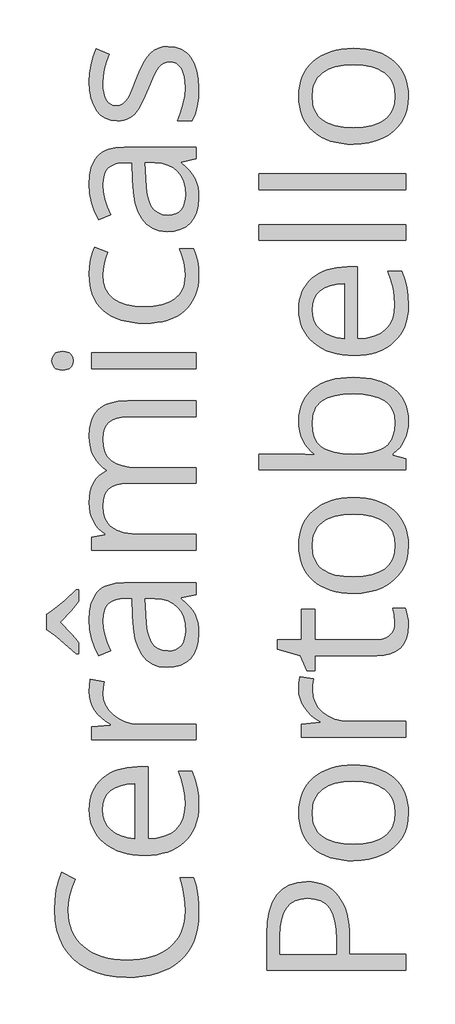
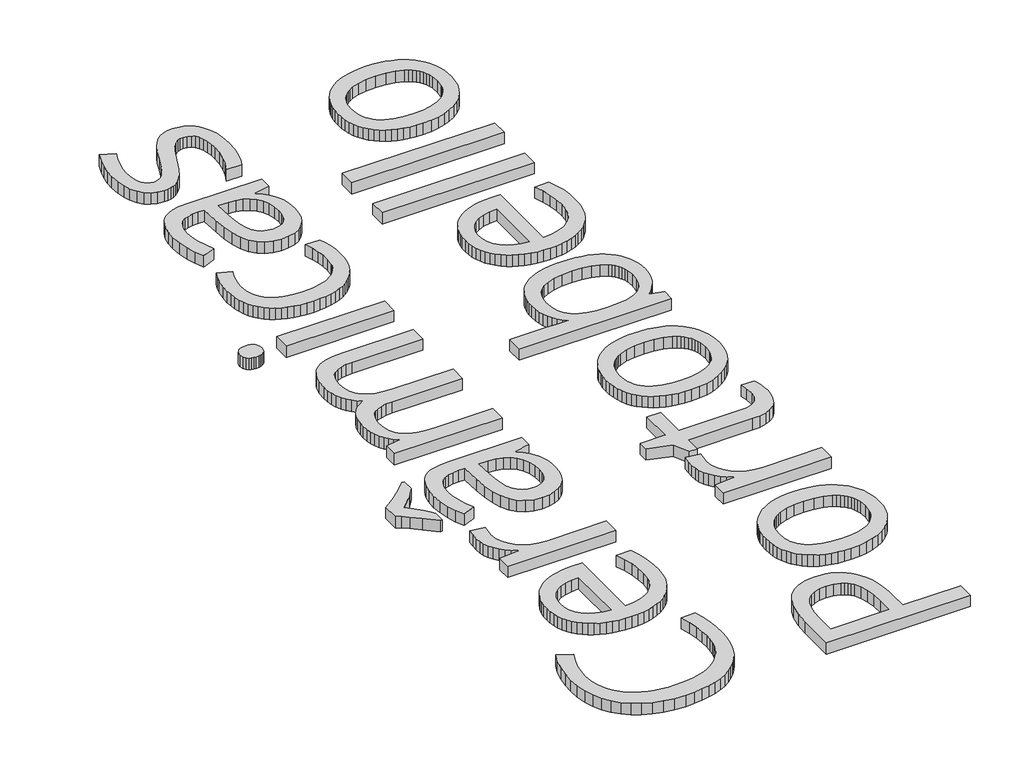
# One storey, part 2 of 4: 1 proxy.
"""IFC4 building model written with IfcOpenShell, lengths in millimetres."""

from ifc_helpers import new_model, si_unit, origin, origin_with_axes, place, context, project, spatial, polyline, outline, extrude, element, save

model = new_model("IFC4")

# Units and contexts
model_context = context("Model", 3, world=origin())
ifc_project = project(units=[si_unit("LENGTHUNIT", "METRE", prefix="MILLI")], contexts=[model_context])

# Site, building, storey
site = spatial("IfcSite", under=ifc_project)
building = spatial("IfcBuilding", under=site)
storey = spatial("IfcBuildingStorey", under=building, Name="PORTOBELLO - SHOWROOM", Elevation=0.0)

# Proxy
placement = place(None, origin())
element("IfcBuildingElementProxy", 1, Name="1200mm OpenSans", ObjectType="1200mm OpenSans", at=placement, inside=storey, context=model_context, shape_type="SweptSolid", body=[
    extrude(outline(polyline([(46885.574215, 18887.7338873), (46887.6952623, 18839.549777), (46894.0584042, 18793.968386), (46904.6636407, 18750.9897145), (46919.5109718, 18710.6137623), (46938.6003975, 18672.8405296), (46961.9319178, 18637.6700162), (46989.5055326, 18605.1022222), (47021.3212421, 18575.1371476), (47056.8269542, 18548.2649149), (47095.4705769, 18524.9756466), (47137.2521102, 18505.2693426), (47182.1715541, 18489.146003), (47230.2289086, 18476.6056277), (47281.4241737, 18467.6482168), (47335.7573495, 18462.2737703), (47393.2284358, 18460.4822881), (47452.1698897, 18462.208984), (47507.6692189, 18467.3890716), (47559.7264236, 18476.022551), (47608.3415037, 18488.1094221), (47653.5144592, 18503.649685), (47695.2452902, 18522.6433396), (47733.5339966, 18545.090386), (47768.3805784, 18570.9908241), (47799.435753, 18600.0855088), (47826.3502377, 18632.1152947), (47849.1240324, 18667.080182), (47867.7571371, 18704.9801706), (47882.2495519, 18745.8152605), (47892.6012768, 18789.5854516), (47898.8123117, 18836.2907441), (47900.8826567, 18885.931138), (47898.0658608, 18951.0329243), (47889.6154731, 19020.506378), (47875.5314937, 19094.3514988), (47855.8139226, 19172.5682868), (47972.6320813, 19172.5682868), (47991.7186902, 19106.5425913), (48005.3519823, 19033.215761), (48013.5319575, 18952.5877957), (48016.2586159, 18864.6586955), (48013.7206829, 18800.2104057), (48006.1068836, 18739.5478896), (47993.4172182, 18682.6711472), (47975.6516865, 18629.5801784), (47952.8102887, 18580.2749833), (47924.8930248, 18534.7555619), (47891.8998946, 18493.0219141), (47853.8308983, 18455.07404), (47811.0860208, 18421.2724894), (47764.0652471, 18391.9778123), (47712.7685774, 18367.1900085), (47657.1960114, 18346.9090782), (47597.3475493, 18331.1350213), (47533.2231911, 18319.8678377), (47464.8229367, 18313.1075276), (47392.1467862, 18310.8540909), (47301.3107527, 18315.1919566), (47216.2885858, 18328.2055535), (47137.0802856, 18349.8948818), (47063.6858522, 18380.2599414), (46997.2432709, 18418.8162434), (46938.8905275, 18465.079299), (46888.6276218, 18519.0491081), (46846.4545538, 18580.7256707), (46813.0924234, 18649.1512762), (46789.2623303, 18723.3682141), (46774.9642744, 18803.3764843), (46770.1982557, 18889.1760868), (46774.1868387, 18980.665617), (46786.1525876, 19066.2060743), (46806.0955024, 19145.7974587), (46834.0155832, 19219.4397702), (46949.7520924, 19160.3095911), (46921.674271, 19092.1656652), (46901.6186844, 19024.0217392), (46889.5853324, 18955.8778133), (46885.574215, 18887.7338873)])), origin_with_axes(), (0.0, 0.0, 1.0), 100.0),
    extrude(outline(polyline([(48016.2586159, 19795.5984669), (48014.3319276, 19746.9749364), (48008.5518624, 19700.9766597), (47998.9184205, 19657.6036367), (47985.4316018, 19616.8558675), (47968.0914064, 19578.733352), (47946.8978342, 19543.2360903), (47921.8508852, 19510.3640824), (47892.9505595, 19480.1173282), (47860.6306435, 19452.9915839), (47825.324924, 19429.4826055), (47787.0334008, 19409.590393), (47745.7560739, 19393.3149464), (47701.4929434, 19380.6562657), (47654.2440093, 19371.6143509), (47604.0092716, 19366.189202), (47550.7887302, 19364.3808191), (47497.041448, 19366.0596294), (47446.1278625, 19371.0960605), (47398.0479736, 19379.4901122), (47352.8017814, 19391.2417846), (47310.3892858, 19406.3510777), (47270.8104869, 19424.8179915), (47234.0653846, 19446.642526), (47200.153979, 19471.8246812), (47169.6903315, 19499.8348994), (47143.2885037, 19530.1436231), (47120.9484956, 19562.7508522), (47102.6703071, 19597.6565867), (47088.4539383, 19634.8608267), (47078.2993892, 19674.3635722), (47072.2066597, 19716.164823), (47070.1757499, 19760.2645794), (47071.9728656, 19801.6095093), (47077.364213, 19840.7348041), (47086.3497918, 19877.6404637), (47098.9296022, 19912.3264882), (47115.1036442, 19944.7928775), (47134.8719177, 19975.0396317), (47158.2344227, 20003.0667507), (47185.1911593, 20028.8742346), (47215.0942643, 20052.0282967), (47247.2958749, 20072.0951505), (47281.7959908, 20089.0747961), (47318.5946122, 20102.9672334), (47357.691739, 20113.7724624), (47399.0873713, 20121.4904831), (47442.781509, 20126.1212955), (47488.7741521, 20127.6648997), (47577.8299707, 20127.6648997), (47577.8299707, 19506.0769191), (47652.3736569, 19512.578084), (47717.3627714, 19528.11553), (47772.7973144, 19552.6892573), (47796.9316215, 19568.3647264), (47818.6772857, 19586.2992658), (47837.9441695, 19606.3295013), (47854.6421355, 19628.2920587), (47880.3313139, 19678.0141396), (47895.744821, 19735.4655084), (47900.8826567, 19800.6461651), (47897.0743486, 19873.2744301), (47885.6494245, 19945.4970765), (47866.6078844, 20017.3141043), (47839.9497282, 20088.7255134), (47959.6522859, 20088.7255134), (47985.6569455, 20018.2380133), (48003.0985456, 19951.7165618), (48012.9685984, 19880.4178245), (48016.2586159, 19795.5984669)]), holes=[polyline([(47185.5517091, 19758.8223799), (47190.14872, 19707.2975496), (47203.9397527, 19661.2485706), (47226.924807, 19620.6754427), (47259.1038832, 19585.578166), (47299.3953315, 19556.5426341), (47346.7175023, 19534.1547404), (47401.0703956, 19518.414485), (47462.4540114, 19509.3218679), (47462.4540114, 19981.2816514), (47399.3127149, 19977.6761526), (47344.0133782, 19966.8596564), (47296.5560012, 19948.8321628), (47256.9405839, 19923.5936717), (47225.7079512, 19891.6624736), (47203.3989278, 19853.5568589), (47190.0135138, 19809.2768277), (47185.5517091, 19758.8223799)])]), origin_with_axes(), (0.0, 0.0, 1.0), 100.0),
    extrude(outline(polyline([(47070.1757499, 20774.8519213), (47072.4291866, 20832.359626), (47079.1894967, 20883.7379828), (47197.8104048, 20864.6288396), (47188.6163831, 20811.4477333), (47185.5517091, 20765.1170747), (47191.1965681, 20711.7894951), (47208.1311449, 20662.4955672), (47236.3554396, 20617.235291), (47275.8694523, 20576.0086664), (47323.8113182, 20541.7000926), (47377.3191727, 20517.1939685), (47436.3930159, 20502.490294), (47501.0328478, 20497.5890691), (47993.1834241, 20497.5890691), (47993.1834241, 20361.3012172), (47093.2509417, 20361.3012172), (47093.2509417, 20473.7927775), (47254.7772847, 20489.296422), (47254.7772847, 20495.7863198), (47212.9760338, 20522.4895447), (47176.2675499, 20551.7616875), (47144.651833, 20583.6027481), (47118.1288829, 20618.0127266), (47097.1493872, 20654.5860043), (47082.1640331, 20692.9169627), (47073.1728207, 20733.0056017), (47070.1757499, 20774.8519213)])), origin_with_axes(), (0.0, 0.0, 1.0), 100.0),
    extrude(outline(polyline([(47993.1834241, 21614.212025), (47861.5827205, 21586.8102347), (47861.5827205, 21579.9597871), (47903.1811621, 21545.9216257), (47937.4784688, 21511.9510674), (47964.4746405, 21478.0481121), (47984.1696773, 21444.21276), (47998.2085879, 21408.3042461), (48008.2363813, 21368.1818056), (48014.2530573, 21323.8454384), (48016.2586159, 21275.2951446), (48011.7855441, 21211.1848704), (47998.3663285, 21154.4207998), (47976.0009692, 21105.0029329), (47944.6894662, 21062.9312696), (47905.1303849, 21029.3325283), (47858.0222905, 21005.3334274), (47803.3651833, 20990.9339669), (47741.159063, 20986.1341467), (47674.6094436, 20993.0409302), (47616.4764102, 21013.7612807), (47566.7599629, 21048.2951982), (47525.4601017, 21096.6426827), (47492.5768266, 21158.8037342), (47468.1101375, 21234.7783527), (47452.0600346, 21324.5665382), (47444.4265178, 21428.1682907), (47439.3788196, 21582.8441861), (47385.2963386, 21582.8441861), (47337.6023508, 21579.9597871), (47296.5560012, 21571.3065902), (47262.1572899, 21556.8845952), (47234.4062169, 21536.6938024), (47213.0323698, 21510.148318), (47197.7653361, 21476.6622486), (47188.6051159, 21436.2355941), (47185.5517091, 21388.8683545), (47189.8783076, 21329.8733816), (47202.858103, 21267.1827725), (47224.4910954, 21200.7965272), (47254.7772847, 21130.7146457), (47149.4967219, 21088.1697607), (47116.3712023, 21158.7473983), (47091.2679174, 21235.6346586), (47075.4487918, 21315.8570053), (47070.1757499, 21396.4399019), (47074.6826233, 21472.639864), (47088.2032435, 21538.2712081), (47110.7376105, 21593.3339339), (47125.3849491, 21616.9020651), (47142.2857244, 21637.8280417), (47161.6709137, 21656.2076348), (47183.7714941, 21672.1366155), (47208.5874659, 21685.6149838), (47236.1188288, 21696.6427397), (47299.3277284, 21711.3464142), (47373.3981928, 21716.247639), (47993.1834241, 21716.247639), (47993.1834241, 21614.212025)]), holes=[polyline([(47900.8826567, 21302.3363851), (47896.5222566, 21363.5847947), (47883.4410566, 21417.8926193), (47861.6390565, 21465.2598588), (47831.1162563, 21505.6865133), (47792.7514964, 21538.02333), (47747.4236171, 21561.1210563), (47695.1326184, 21574.979692), (47635.8785002, 21579.5992372), (47554.7547788, 21579.5992372), (47560.5235768, 21440.7875362), (47565.8416874, 21363.967879), (47576.0272213, 21298.6407489), (47591.0801785, 21244.806146), (47611.000559, 21202.4640703), (47636.4418594, 21170.4427348), (47668.0575763, 21147.5703522), (47705.8477099, 21133.8469227), (47749.81226, 21129.2724462), (47784.560254, 21132.1230436), (47814.891512, 21140.6748359), (47840.8060341, 21154.9278231), (47862.3038203, 21174.8820051), (47879.1820612, 21199.9514884), (47891.2379476, 21229.5503795), (47898.4714794, 21263.6786784), (47900.8826567, 21302.3363851)])]), origin_with_axes(), (0.0, 0.0, 1.0), 100.0),
    extrude(outline(polyline([(46958.4052893, 21104.394505), (46858.8935244, 21192.7292238), (46789.6679489, 21250.0566535), (46740.4528912, 21286.1116408), (46700.9726802, 21310.6290322), (46700.9726802, 21446.5563342), (46741.5345409, 21471.2089317), (46792.5523479, 21509.1117371), (46862.1384733, 21568.10671), (46958.4052893, 21656.0358103), (46977.8749824, 21656.0358103), (46977.8749824, 21558.6873446), (46950.157711, 21520.3338519), (46914.2379299, 21477.3833483), (46817.7908389, 21377.6913085), (46915.4998545, 21277.1880315), (46951.1041544, 21235.1163682), (46977.8749824, 21198.4980217), (46977.8749824, 21104.394505), (46958.4052893, 21104.394505)])), origin_with_axes(), (0.0, 0.0, 1.0), 100.0),
    extrude(outline(polyline([(47993.1834241, 23149.793933), (47402.6027325, 23149.793933), (47351.7313989, 23146.9095341), (47307.6429098, 23138.2563371), (47270.3372652, 23123.8343422), (47239.814465, 23103.6435493), (47216.0745093, 23077.3684774), (47199.1173981, 23044.6936451), (47188.9431314, 23005.6190527), (47185.5517091, 22960.1447), (47190.1599872, 22900.4962304), (47203.9848214, 22849.1854766), (47227.0262117, 22806.2124387), (47259.2841581, 22771.5771165), (47301.1192105, 22744.9189603), (47352.8919188, 22725.8774202), (47414.602283, 22714.4524961), (47486.250303, 22710.644188), (47993.1834241, 22710.644188), (47993.1834241, 22573.9957863), (47402.6027325, 22573.9957863), (47351.7313989, 22571.1113873), (47307.6429098, 22562.4581903), (47270.3372652, 22548.0361954), (47239.814465, 22527.8454026), (47216.0745093, 22501.5252618), (47199.1173981, 22468.7152234), (47188.9431314, 22429.4152873), (47185.5517091, 22383.6254535), (47190.3965981, 22323.5713653), (47204.9312648, 22272.1254053), (47229.1557094, 22229.2875736), (47244.9015984, 22211.0967058), (47263.0699318, 22195.05787), (47308.0034597, 22168.8729355), (47365.2858207, 22150.1694109), (47434.9170149, 22138.9472961), (47516.8970422, 22135.2065911), (47993.1834241, 22135.2065911), (47993.1834241, 21998.9187392), (47093.2509417, 21998.9187392), (47093.2509417, 22109.9681), (47208.626901, 22131.9616423), (47208.626901, 22138.45154), (47177.7886197, 22159.8929902), (47150.5333028, 22185.2779547), (47126.8609502, 22214.6064334), (47106.7715619, 22247.8784264), (47090.7608942, 22284.1700245), (47079.3247029, 22322.5573188), (47072.4629881, 22363.0403092), (47070.1757499, 22405.6189957), (47072.5418584, 22456.2424513), (47079.640184, 22502.2914303), (47091.4707267, 22543.7659329), (47108.0334865, 22580.6659589), (47129.3284634, 22612.9915084), (47155.3556573, 22640.7425815), (47186.1150683, 22663.919178), (47221.6066964, 22682.521298), (47221.6066964, 22689.0111957), (47188.4586425, 22711.4666924), (47158.961156, 22738.451597), (47133.114237, 22769.9659093), (47110.9178855, 22806.0096294), (47093.0932012, 22845.6588482), (47080.3612838, 22887.9896567), (47072.7221333, 22933.0020549), (47070.1757499, 22980.6960427), (47075.1107762, 23052.5018033), (47089.9158554, 23114.6853892), (47101.0196648, 23142.1688666), (47114.5909873, 23167.2468003), (47130.6298231, 23189.9191904), (47149.136172, 23210.1860367), (47170.3579122, 23228.0586066), (47194.5429216, 23243.5481671), (47221.6912003, 23256.6547184), (47251.8027483, 23267.3782603), (47320.915652, 23281.6763162), (47401.8816328, 23286.4423348), (47993.1834241, 23286.4423348), (47993.1834241, 23149.793933)])), origin_with_axes(), (0.0, 0.0, 1.0), 100.0),
    extrude(outline(polyline([(47993.1834241, 23700.3535887), (47993.1834241, 23564.0657368), (47093.2509417, 23564.0657368), (47093.2509417, 23700.3535887), (47993.1834241, 23700.3535887)])), origin_with_axes(), (0.0, 0.0, 1.0), 100.0),
    extrude(outline(polyline([(46839.0632814, 23552.5281409), (46816.8556627, 23553.9703404), (46797.8253897, 23558.2969389), (46781.9724625, 23565.5079363), (46769.2968811, 23575.6033328), (46752.6665182, 23601.5629236), (46747.1230639, 23633.2913124), (46752.7566556, 23663.8479141), (46769.6574309, 23689.8976424), (46782.4456842, 23700.30852), (46798.2760771, 23707.7448611), (46817.1486095, 23712.2066658), (46839.0632814, 23713.693934), (46861.0004878, 23712.2066658), (46879.9406233, 23707.7448611), (46895.8836879, 23700.30852), (46908.8296818, 23689.8976424), (46926.0008695, 23663.8479141), (46931.7245987, 23633.2913124), (46926.0008695, 23601.5629236), (46918.846208, 23587.8620284), (46908.8296818, 23575.6033328), (46895.8836879, 23565.5079363), (46879.9406233, 23558.2969389), (46861.0004878, 23553.9703404), (46839.0632814, 23552.5281409)])), origin_with_axes(), (0.0, 0.0, 1.0), 100.0),
    extrude(outline(polyline([(48016.2586159, 24370.2552523), (48014.3516451, 24322.3415543), (48008.6307327, 24277.2108507), (47999.0958786, 24234.8631415), (47985.747083, 24195.2984265), (47968.5843457, 24158.5167059), (47947.6076667, 24124.5179796), (47922.8170462, 24093.3022477), (47894.212484, 24064.8695101), (47862.1207286, 24039.5183471), (47826.8685281, 24017.5473393), (47788.4558827, 23998.9564865), (47746.8827923, 23983.7457887), (47702.1492569, 23971.915246), (47654.2552765, 23963.4648584), (47603.2008512, 23958.3946258), (47548.9859809, 23956.7045482), (47493.3739798, 23958.4199769), (47441.0125612, 23963.566263), (47391.901725, 23972.1434065), (47346.0414712, 23984.1514073), (47303.4318, 23999.5902655), (47264.0727111, 24018.4599811), (47227.9642047, 24040.7605541), (47195.1062808, 24066.4919845), (47165.8256876, 24095.395127), (47140.4491735, 24127.2108365), (47118.9767385, 24161.9391129), (47101.4083826, 24199.5799563), (47087.7441058, 24240.1333666), (47077.983908, 24283.5993438), (47072.1277894, 24329.977888), (47070.1757499, 24379.2689991), (47073.5108362, 24444.8440072), (47083.5160952, 24510.3288778), (47098.0282275, 24568.6928885), (47114.8839341, 24612.9053166), (47227.7360443, 24570.7209815), (47211.1958188, 24522.9030547), (47197.6301299, 24471.0289417), (47188.5713143, 24420.2364784), (47185.5517091, 24375.6635004), (47191.1909345, 24310.6800194), (47208.1086106, 24254.3610026), (47236.3047373, 24206.7064498), (47275.7793148, 24167.7163613), (47326.532343, 24137.3907368), (47388.5638219, 24115.7295765), (47461.8737515, 24102.7328803), (47546.4621318, 24098.4006482), (47627.1126314, 24102.6258421), (47697.8029408, 24115.3014235), (47758.53306, 24136.4273926), (47809.302989, 24166.0037494), (47830.7669736, 24183.921388), (47849.3690936, 24203.8727532), (47865.109349, 24225.857845), (47877.9877398, 24249.8766635), (47888.0042659, 24275.9292086), (47895.1589274, 24304.0154803), (47900.8826567, 24366.2892037), (47897.8405171, 24423.5940991), (47888.7140985, 24481.5750255), (47873.5034007, 24540.2319829), (47852.2084238, 24599.5649713), (47970.829332, 24599.5649713), (47990.7046437, 24551.0259447), (48004.901295, 24496.6279827), (48013.4192857, 24436.3710852), (48016.2586159, 24370.2552523)])), origin_with_axes(), (0.0, 0.0, 1.0), 100.0),
    extrude(outline(polyline([(47993.1834241, 25375.4682975), (47861.5827205, 25348.0665072), (47861.5827205, 25341.2160596), (47903.1811621, 25307.1778982), (47937.4784688, 25273.2073398), (47964.4746405, 25239.3043846), (47984.1696773, 25205.4690325), (47998.2085879, 25169.5605186), (48008.2363813, 25129.4380781), (48014.2530573, 25085.1017109), (48016.2586159, 25036.5514171), (48011.7855441, 24972.4411429), (47998.3663285, 24915.6770723), (47976.0009692, 24866.2592053), (47944.6894662, 24824.1875421), (47905.1303849, 24790.5888008), (47858.0222905, 24766.5896999), (47803.3651833, 24752.1902394), (47741.159063, 24747.3904192), (47674.6094436, 24754.2972027), (47616.4764102, 24775.0175532), (47566.7599629, 24809.5514707), (47525.4601017, 24857.8989552), (47492.5768266, 24920.0600067), (47468.1101375, 24996.0346252), (47452.0600346, 25085.8228107), (47444.4265178, 25189.4245632), (47439.3788196, 25344.1004586), (47385.2963386, 25344.1004586), (47337.6023508, 25341.2160596), (47296.5560012, 25332.5628626), (47262.1572899, 25318.1408677), (47234.4062169, 25297.9500749), (47213.0323698, 25271.4045905), (47197.7653361, 25237.918521), (47188.6051159, 25197.4918666), (47185.5517091, 25150.124627), (47189.8783076, 25091.1296541), (47202.858103, 25028.439045), (47224.4910954, 24962.0527997), (47254.7772847, 24891.9709181), (47149.4967219, 24849.4260332), (47116.3712023, 24920.0036707), (47091.2679174, 24996.8909311), (47075.4487918, 25077.1132778), (47070.1757499, 25157.6961744), (47074.6826233, 25233.8961365), (47088.2032435, 25299.5274805), (47110.7376105, 25354.5902064), (47125.3849491, 25378.1583376), (47142.2857244, 25399.0843142), (47161.6709137, 25417.4639073), (47183.7714941, 25433.392888), (47208.5874659, 25446.8712563), (47236.1188288, 25457.8990122), (47299.3277284, 25472.6026866), (47373.3981928, 25477.5039115), (47993.1834241, 25477.5039115), (47993.1834241, 25375.4682975)]), holes=[polyline([(47900.8826567, 25063.5926576), (47896.5222566, 25124.8410672), (47883.4410566, 25179.1488918), (47861.6390565, 25226.5161313), (47831.1162563, 25266.9427858), (47792.7514964, 25299.2796025), (47747.4236171, 25322.3773287), (47695.1326184, 25336.2359645), (47635.8785002, 25340.8555097), (47554.7547788, 25340.8555097), (47560.5235768, 25202.0438087), (47565.8416874, 25125.2241514), (47576.0272213, 25059.8970214), (47591.0801785, 25006.0624185), (47611.000559, 24963.7203428), (47636.4418594, 24931.6990072), (47668.0575763, 24908.8266247), (47705.8477099, 24895.1031952), (47749.81226, 24890.5287187), (47784.560254, 24893.3793161), (47814.891512, 24901.9311084), (47840.8060341, 24916.1840955), (47862.3038203, 24936.1382776), (47879.1820612, 24961.2077609), (47891.2379476, 24990.806652), (47898.4714794, 25024.9349509), (47900.8826567, 25063.5926576)])]), origin_with_axes(), (0.0, 0.0, 1.0), 100.0),
    extrude(outline(polyline([(47750.5333597, 26344.9869053), (47810.6888526, 26339.0941683), (47838.020223, 26331.7282471), (47863.5206761, 26321.4159574), (47887.1902119, 26308.1572992), (47909.0288304, 26291.9522725), (47929.0365315, 26272.8008773), (47947.2133153, 26250.7031136), (47977.4206343, 26198.8177335), (47998.9972908, 26137.4453848), (48011.9432847, 26066.5860676), (48016.2586159, 25986.2397819), (48012.698186, 25901.2176151), (48002.016896, 25826.065501), (47984.214746, 25760.7834396), (47959.2917361, 25705.3714311), (47831.6570811, 25705.3714311), (47860.3658647, 25773.0646697), (47882.3143382, 25845.6253316), (47896.2405771, 25919.1775056), (47900.8826567, 25989.8452807), (47898.7418918, 26040.6264768), (47892.3195972, 26085.1656533), (47881.6157728, 26123.4628101), (47866.6304188, 26155.5179472), (47847.2508631, 26180.8353086), (47823.364434, 26198.9191381), (47794.9711316, 26209.7694358), (47762.0709557, 26213.3862018), (47736.3592429, 26210.51307), (47712.5854856, 26201.8936746), (47690.749684, 26187.5280156), (47670.8518379, 26167.416093), (47651.0666636, 26138.988989), (47629.5688774, 26099.6777856), (47581.4354694, 25988.4030812), (47536.9075601, 25880.1479819), (47498.5089987, 25808.4886947), (47460.7864683, 25761.9326923), (47440.1337209, 25743.7587253), (47418.286652, 25728.9874477), (47394.7269713, 25717.5512564), (47368.9363882, 25709.3825484), (47340.9149027, 25704.4813236), (47310.662515, 25702.8475819), (47257.8870274, 25708.4811737), (47210.9704752, 25725.381949), (47169.9128584, 25753.5499078), (47134.7141771, 25792.9850501), (47106.4786152, 25842.2451765), (47086.3103567, 25899.8880874), (47074.2094016, 25965.9137829), (47070.1757499, 26040.3222628), (47073.9164548, 26112.9505278), (47085.1385696, 26184.8126243), (47103.8420942, 26255.9085524), (47130.0270287, 26326.2383119), (47241.4369394, 26277.2035292), (47216.9871512, 26210.5018028), (47199.5230167, 26147.0450252), (47189.044536, 26086.8331964), (47185.5517091, 26029.8663165), (47187.4783975, 25984.0088796), (47193.2584627, 25944.1455843), (47202.8919046, 25910.2764306), (47216.3787233, 25882.4014186), (47233.2682314, 25860.63322), (47253.1097415, 25845.0845067), (47275.9032538, 25835.7552788), (47301.6487682, 25832.6455361), (47335.6756624, 25837.2876157), (47364.2041711, 25851.2138546), (47389.3525247, 25875.5059023), (47413.2389538, 25911.2454084), (47441.7674625, 25971.7276495), (47480.8420549, 26070.2479023), (47510.4522132, 26144.3070996), (47540.152509, 26205.3188984), (47569.9429422, 26253.2832986), (47599.8235129, 26288.2003004), (47631.6871079, 26313.04444), (47667.4266141, 26330.7902541), (47707.0420313, 26341.4377425), (47750.5333597, 26344.9869053)])), origin_with_axes(), (0.0, 0.0, 1.0), 100.0),
    extrude(outline(polyline([(48947.6913784, 19136.8738494), (48991.1122869, 19134.9246266), (49031.958644, 19129.0769584), (49070.2304496, 19119.3308446), (49105.9277038, 19105.6862854), (49139.0504065, 19088.1432806), (49169.5985579, 19066.7018304), (49197.5721578, 19041.3619347), (49222.9712062, 19012.1235934), (49245.5759932, 18979.2515855), (49265.1668085, 18943.0106897), (49281.7436523, 18903.400906), (49295.3065244, 18860.4222345), (49305.855425, 18814.074675), (49313.390354, 18764.3582277), (49317.9113114, 18711.2728926), (49319.4182972, 18654.8186695), (49319.4182972, 18513.1225695), (49803.9973262, 18513.1225695), (49803.9973262, 18373.5897688), (48604.0873497, 18373.5897688), (48604.0873497, 18685.8259586), (48609.4561626, 18791.540308), (48625.5626015, 18883.1594108), (48652.4066662, 18960.683267), (48689.9883568, 19024.1118767), (48738.3076734, 19073.4452397), (48797.3646158, 19108.6833562), (48867.1591842, 19129.8262261), (48947.6913784, 19136.8738494)]), holes=[polyline([(49204.0423379, 18513.1225695), (49204.0423379, 18639.315025), (49200.3241673, 18726.0723381), (49189.1696557, 18799.9399933), (49170.5788028, 18860.9179905), (49144.5516089, 18909.0063298), (49128.5522083, 18928.5267253), (49110.299371, 18945.4444013), (49089.793097, 18959.759358), (49067.0333863, 18971.4715953), (49014.7536547, 18987.0879116), (48953.4601763, 18992.2933504), (48898.1045037, 18987.3921256), (48850.297844, 18972.6884511), (48810.0401973, 18948.1823269), (48777.3315635, 18913.8737531), (48752.0142021, 18869.2219048), (48733.9303726, 18813.6859572), (48723.0800748, 18747.2659103), (48719.4633089, 18669.9617642), (48719.4633089, 18513.1225695), (49204.0423379, 18513.1225695)])]), origin_with_axes(), (0.0, 0.0, 1.0), 100.0),
    extrude(outline(polyline([(49353.3099852, 20144.2501938), (49407.5755579, 20142.5178644), (49458.7820902, 20137.320876), (49506.9295822, 20128.6592286), (49552.0180338, 20116.5329224), (49594.0474452, 20100.9419572), (49633.0178162, 20081.886333), (49668.9291469, 20059.36605), (49701.7814372, 20033.381108), (49731.1465343, 20004.3483928), (49756.5962851, 19972.6847903), (49778.1306896, 19938.3903005), (49795.7497478, 19901.4649233), (49809.4534598, 19861.9086587), (49819.2418255, 19819.7215068), (49825.1148449, 19774.9034676), (49827.072518, 19727.4545409), (49823.4782865, 19668.763782), (49812.6955918, 19613.4757124), (49794.7244341, 19561.5903323), (49769.5648133, 19513.1076416), (49737.6899511, 19468.9966181), (49699.5730693, 19430.2262396), (49655.2141677, 19396.7965061), (49604.6132465, 19368.7074176), (49548.6153444, 19346.4659973), (49488.0655002, 19330.5792685), (49422.9637138, 19321.0472313), (49353.3099852, 19317.8698855), (49299.0556798, 19319.588131), (49247.882949, 19324.7428674), (49199.7917929, 19333.3340949), (49154.7822115, 19345.3618133), (49112.8542049, 19360.8260227), (49074.0077729, 19379.726723), (49038.2429156, 19402.0639144), (49005.559633, 19427.8375967), (48976.3635437, 19456.6646857), (48951.0602663, 19488.1620973), (48929.6498008, 19522.3298313), (48912.1321472, 19559.1678878), (48898.5073055, 19598.6762669), (48888.7752757, 19640.8549684), (48882.9360579, 19685.7039924), (48880.9896519, 19733.2233389), (48882.9811266, 19779.1568293), (48888.9555507, 19822.6735089), (48898.9129241, 19863.7733776), (48912.8532469, 19902.4564354), (48930.7765191, 19938.7226824), (48952.6827407, 19972.5721185), (48978.5719116, 20004.0047437), (49008.4440319, 20033.0205581), (49041.7132081, 20059.090004), (49077.7935465, 20081.6835237), (49116.6850473, 20100.8011174), (49158.3877103, 20116.4427849), (49202.9015356, 20128.6085263), (49250.2265232, 20137.2983416), (49300.3626731, 20142.5122308), (49353.3099852, 20144.2501938)]), holes=[polyline([(49352.2283356, 19459.5659855), (49434.7942565, 19463.8700496), (49506.904231, 19476.7822419), (49568.5582593, 19498.3025624), (49595.4642935, 19512.2907708), (49619.7563412, 19528.4310112), (49641.3048297, 19546.6556805), (49659.9801864, 19566.8971757), (49675.7824113, 19589.1554968), (49688.7115043, 19613.4306437), (49698.7674656, 19639.7226164), (49705.9502951, 19668.031415), (49711.6965587, 19730.6994898), (49705.9728295, 19793.3900989), (49698.818168, 19821.7270655), (49688.8016418, 19848.0584734), (49675.923251, 19872.3843226), (49660.1829957, 19894.7046132), (49641.5808757, 19915.0193451), (49620.1168911, 19933.3285183), (49595.8980801, 19949.5532625), (49569.031481, 19963.6147076), (49507.3549184, 19985.2477), (49435.0872032, 19998.2274954), (49352.2283356, 20002.5540938), (49270.2145067, 19998.2274954), (49198.6791586, 19985.2477), (49137.622291, 19963.6147076), (49111.0232875, 19949.5532625), (49087.0439042, 19933.3285183), (49065.7911793, 19914.9911771), (49047.372151, 19894.5919413), (49031.7868194, 19872.130811), (49019.0351845, 19847.607786), (49009.1172462, 19821.0228665), (49002.0330045, 19792.3760524), (48996.3656112, 19728.8967404), (49001.9541342, 19666.2850016), (49008.939788, 19638.0466229), (49018.7197033, 19611.853238), (49031.2938801, 19587.7048469), (49046.6623185, 19565.6014496), (49064.8250183, 19545.5430462), (49085.7819796, 19527.5296365), (49109.5050346, 19511.6006558), (49135.9660151, 19497.7955392), (49197.1017529, 19476.5568982), (49269.189193, 19463.8137137), (49352.2283356, 19459.5659855)])]), origin_with_axes(), (0.0, 0.0, 1.0), 100.0),
    extrude(outline(polyline([(48880.9896519, 20797.9271131), (48883.2430886, 20855.4348178), (48890.0033987, 20906.8131747), (49008.6243069, 20887.7040314), (48999.4302851, 20834.5229252), (48996.3656112, 20788.1922666), (49002.0104702, 20734.8646869), (49018.945047, 20685.570759), (49047.1693417, 20640.3104828), (49086.6833543, 20599.0838583), (49134.6252202, 20564.7752845), (49188.1330748, 20540.2691603), (49247.206918, 20525.5654858), (49311.8467499, 20520.664261), (49803.9973262, 20520.664261), (49803.9973262, 20384.3764091), (48904.0648438, 20384.3764091), (48904.0648438, 20496.8679694), (49065.5911868, 20512.3716139), (49065.5911868, 20518.8615116), (49023.7899359, 20545.5647366), (48987.081452, 20574.8368794), (48955.465735, 20606.67794), (48928.942785, 20641.0879185), (48907.9632893, 20677.6611962), (48892.9779352, 20715.9921545), (48883.9867227, 20756.0807935), (48880.9896519, 20797.9271131)])), origin_with_axes(), (0.0, 0.0, 1.0), 100.0),
    extrude(outline(polyline([(49711.6965587, 21370.480311), (49706.2883106, 21441.1480861), (49695.1112646, 21495.230567), (49801.8340269, 21495.230567), (49811.7491484, 21467.5583643), (49819.8615206, 21429.2499403), (49825.2697686, 21387.8768424), (49827.072518, 21351.0106179), (49822.7909883, 21289.1537804), (49809.9463991, 21235.5445212), (49788.5387504, 21190.1828403), (49758.5680422, 21153.0687378), (49720.0342745, 21124.2022136), (49672.9374474, 21103.5832677), (49617.2775608, 21091.2119002), (49553.0546147, 21087.0881111), (49019.4408031, 21087.0881111), (49019.4408031, 20956.5690571), (48952.0179769, 20956.5690571), (48893.6088975, 21086.3670113), (48696.3881171, 21144.4155408), (48696.3881171, 21223.7365128), (48904.0648438, 21223.7365128), (48904.0648438, 21488.7406693), (49019.4408031, 21488.7406693), (49019.4408031, 21223.7365128), (49544.7619677, 21223.7365128), (49582.788712, 21226.1814917), (49616.1057737, 21233.5164281), (49644.7131527, 21245.7413223), (49668.6108489, 21262.856174), (49687.460847, 21284.2525555), (49700.9251313, 21309.3220389), (49709.0037019, 21338.064624), (49711.6965587, 21370.480311)])), origin_with_axes(), (0.0, 0.0, 1.0), 100.0),
    extrude(outline(polyline([(49353.3099852, 22451.7693794), (49407.5755579, 22450.0370499), (49458.7820902, 22444.8400615), (49506.9295822, 22436.1784142), (49552.0180338, 22424.0521079), (49594.0474452, 22408.4611427), (49633.0178162, 22389.4055186), (49668.9291469, 22366.8852355), (49701.7814372, 22340.9002935), (49731.1465343, 22311.8675784), (49756.5962851, 22280.2039759), (49778.1306896, 22245.909486), (49795.7497478, 22208.9841088), (49809.4534598, 22169.4278443), (49819.2418255, 22127.2406924), (49825.1148449, 22082.4226531), (49827.072518, 22034.9737265), (49823.4782865, 21976.2829675), (49812.6955918, 21920.994898), (49794.7244341, 21869.1095179), (49769.5648133, 21820.6268272), (49737.6899511, 21776.5158037), (49699.5730693, 21737.7454252), (49655.2141677, 21704.3156917), (49604.6132465, 21676.2266031), (49548.6153444, 21653.9851829), (49488.0655002, 21638.0984541), (49422.9637138, 21628.5664168), (49353.3099852, 21625.3890711), (49299.0556798, 21627.1073166), (49247.882949, 21632.262053), (49199.7917929, 21640.8532805), (49154.7822115, 21652.8809989), (49112.8542049, 21668.3452083), (49074.0077729, 21687.2459086), (49038.2429156, 21709.5830999), (49005.559633, 21735.3567823), (48976.3635437, 21764.1838713), (48951.0602663, 21795.6812828), (48929.6498008, 21829.8490169), (48912.1321472, 21866.6870734), (48898.5073055, 21906.1954524), (48888.7752757, 21948.3741539), (48882.9360579, 21993.223178), (48880.9896519, 22040.7425245), (48882.9811266, 22086.6760149), (48888.9555507, 22130.1926945), (48898.9129241, 22171.2925632), (48912.8532469, 22209.975621), (48930.7765191, 22246.241868), (48952.6827407, 22280.0913041), (48978.5719116, 22311.5239293), (49008.4440319, 22340.5397437), (49041.7132081, 22366.6091895), (49077.7935465, 22389.2027093), (49116.6850473, 22408.3203029), (49158.3877103, 22423.9619705), (49202.9015356, 22436.1277119), (49250.2265232, 22444.8175272), (49300.3626731, 22450.0314163), (49353.3099852, 22451.7693794)]), holes=[polyline([(49352.2283356, 21767.0851711), (49434.7942565, 21771.3892352), (49506.904231, 21784.3014275), (49568.5582593, 21805.821748), (49595.4642935, 21819.8099564), (49619.7563412, 21835.9501968), (49641.3048297, 21854.1748661), (49659.9801864, 21874.4163613), (49675.7824113, 21896.6746824), (49688.7115043, 21920.9498293), (49698.7674656, 21947.241802), (49705.9502951, 21975.5506006), (49711.6965587, 22038.2186754), (49705.9728295, 22100.9092845), (49698.818168, 22129.246251), (49688.8016418, 22155.5776589), (49675.923251, 22179.9035082), (49660.1829957, 22202.2237987), (49641.5808757, 22222.5385306), (49620.1168911, 22240.8477038), (49595.8980801, 22257.0724481), (49569.031481, 22271.1338932), (49507.3549184, 22292.7668855), (49435.0872032, 22305.7466809), (49352.2283356, 22310.0732794), (49270.2145067, 22305.7466809), (49198.6791586, 22292.7668855), (49137.622291, 22271.1338932), (49111.0232875, 22257.0724481), (49087.0439042, 22240.8477038), (49065.7911793, 22222.5103627), (49047.372151, 22202.1111269), (49031.7868194, 22179.6499965), (49019.0351845, 22155.1269716), (49009.1172462, 22128.5420521), (49002.0330045, 22099.895238), (48996.3656112, 22036.415926), (49001.9541342, 21973.8041872), (49008.939788, 21945.5658085), (49018.7197033, 21919.3724236), (49031.2938801, 21895.2240325), (49046.6623185, 21873.1206352), (49064.8250183, 21853.0622317), (49085.7819796, 21835.0488221), (49109.5050346, 21819.1198414), (49135.9660151, 21805.3147248), (49197.1017529, 21784.0760838), (49269.189193, 21771.3328992), (49352.2283356, 21767.0851711)])]), origin_with_axes(), (0.0, 0.0, 1.0), 100.0),
    extrude(outline(polyline([(48880.9896519, 23113.017846), (48882.9135235, 23156.5626935), (48888.6851383, 23197.6005927), (48898.3044962, 23236.1315436), (48911.7715973, 23272.1555461), (48929.0864416, 23305.6726003), (48950.249029, 23336.6827061), (48975.2593597, 23365.1858637), (49004.1174335, 23391.1820728), (49036.4908685, 23414.3783869), (49072.0472829, 23434.4818591), (49110.7866767, 23451.4924894), (49152.7090498, 23465.4102779), (49197.8144022, 23476.2352245), (49246.102734, 23483.9673292), (49297.5740451, 23488.606592), (49352.2283356, 23490.1530129), (49406.9924811, 23488.592508), (49458.6130824, 23483.9109932), (49507.0901395, 23476.1084686), (49552.4236524, 23465.1849342), (49594.6136212, 23451.14039), (49633.6600457, 23433.9748359), (49669.5629259, 23413.6882719), (49702.322262, 23390.2806982), (49731.5606033, 23364.1070308), (49756.900499, 23335.5221862), (49778.3419493, 23304.5261644), (49795.884954, 23271.1189652), (49809.5295133, 23235.3005888), (49819.275627, 23197.0710351), (49825.1232953, 23156.4303041), (49827.072518, 23113.3783959), (49825.0106234, 23069.9884721), (49818.8249397, 23028.5139696), (49808.5154667, 22988.9548882), (49794.0822047, 22951.3112281), (49775.3674128, 22916.1238139), (49752.2133507, 22883.9334706), (49724.6200182, 22854.7401981), (49692.5874155, 22828.5439964), (49692.5874155, 22818.4486), (49803.9973262, 22789.6046102), (49803.9973262, 22691.8955947), (48534.8617741, 22691.8955947), (48534.8617741, 22828.1834465), (48835.9209178, 22828.1834465), (48932.0074589, 22826.5609721), (49017.6380537, 22821.6935488), (49017.6380537, 22828.1834465), (48985.6110845, 22853.69235), (48957.8543779, 22882.0856525), (48934.3679339, 22913.363354), (48915.1517524, 22947.5254544), (48900.2058334, 22984.5719539), (48889.530177, 23024.5028523), (48883.1247832, 23067.3181496), (48880.9896519, 23113.017846)]), holes=[polyline([(48996.3656112, 23093.9087028), (49001.4583782, 23028.1872213), (49016.736679, 22972.3583269), (49028.1954047, 22948.1535999), (49042.2005138, 22926.4220197), (49058.7520064, 22907.1635863), (49077.8498824, 22890.3782996), (49099.9617301, 22875.8013809), (49125.5551375, 22863.1680514), (49187.1866314, 22843.7321598), (49262.7443641, 22832.0706249), (49352.2283356, 22828.1834465), (49441.9714524, 22832.1832967), (49517.9460709, 22844.1828472), (49580.1521911, 22864.1820979), (49606.0920644, 22877.1816109), (49628.5898131, 22892.181049), (49648.0679566, 22909.3832214), (49664.9490143, 22928.9909375), (49679.2329862, 22951.0041973), (49690.9198723, 22975.4230008), (49706.5023871, 23031.4772389), (49711.6965587, 23097.1536516), (49705.8714249, 23156.7232509), (49698.5900075, 23183.4574606), (49688.3960232, 23208.1579437), (49675.289472, 23230.8247001), (49659.2703538, 23251.45773), (49640.3386687, 23270.0570332), (49618.4944166, 23286.6226097), (49566.8118458, 23313.832858), (49504.9662754, 23333.2687495), (49432.9577055, 23344.9302845), (49350.7861361, 23348.8174628), (49267.0596954, 23344.9302845), (49194.7131099, 23333.2687495), (49133.7463799, 23313.832858), (49084.1595052, 23286.6226097), (49063.5828113, 23270.0063308), (49045.7496766, 23251.2549207), (49030.6601011, 23230.3683792), (49018.3140847, 23207.3467065), (49008.7116276, 23182.1899025), (49001.8527296, 23154.8979672), (48996.3656112, 23093.9087028)])]), origin_with_axes(), (0.0, 0.0, 1.0), 100.0),
    extrude(outline(polyline([(49827.072518, 24110.6593439), (49825.1458296, 24062.0358134), (49819.3657645, 24016.0375367), (49809.7323226, 23972.6645137), (49796.2455039, 23931.9167445), (49778.9053084, 23893.794229), (49757.7117362, 23858.2969673), (49732.6647873, 23825.4249594), (49703.7644615, 23795.1782053), (49671.4445456, 23768.0524609), (49636.138826, 23744.5434825), (49597.8473028, 23724.65127), (49556.569976, 23708.3758234), (49512.3068455, 23695.7171427), (49465.0579114, 23686.6752279), (49414.8231737, 23681.2500791), (49361.6026323, 23679.4416961), (49307.8553501, 23681.1205064), (49256.9417645, 23686.1569375), (49208.8618757, 23694.5509892), (49163.6156834, 23706.3026616), (49121.2031878, 23721.4119547), (49081.6243889, 23739.8788685), (49044.8792867, 23761.703403), (49010.9678811, 23786.8855582), (48980.5042336, 23814.8957764), (48954.1024058, 23845.2045001), (48931.7623977, 23877.8117292), (48913.4842092, 23912.7174638), (48899.2678404, 23949.9217038), (48889.1132912, 23989.4244492), (48883.0205618, 24031.2257001), (48880.9896519, 24075.3254564), (48882.7867677, 24116.6703863), (48888.178115, 24155.7956811), (48897.1636939, 24192.7013407), (48909.7435043, 24227.3873652), (48925.9175462, 24259.8537545), (48945.6858197, 24290.1005087), (48969.0483248, 24318.1276277), (48996.0050613, 24343.9351116), (49025.9081664, 24367.0891737), (49058.1097769, 24387.1560276), (49092.6098929, 24404.1356731), (49129.4085142, 24418.0281104), (49168.5056411, 24428.8333394), (49209.9012733, 24436.5513601), (49253.595411, 24441.1821726), (49299.5880542, 24442.7257767), (49388.6438728, 24442.7257767), (49388.6438728, 23821.1377961), (49463.1875589, 23827.638961), (49528.1766735, 23843.1764071), (49583.6112164, 23867.7501343), (49607.7455235, 23883.4256034), (49629.4911877, 23901.3601428), (49648.7580716, 23921.3903783), (49665.4560376, 23943.3529358), (49691.145216, 23993.0750167), (49706.558723, 24050.5263854), (49711.6965587, 24115.7070421), (49707.8882507, 24188.3353071), (49696.4633266, 24260.5579535), (49677.4217865, 24332.3749813), (49650.7636302, 24403.7863904), (49770.466188, 24403.7863904), (49796.4708476, 24333.2988903), (49813.9124477, 24266.7774388), (49823.7825004, 24195.4787015), (49827.072518, 24110.6593439)]), holes=[polyline([(48996.3656112, 24073.8832569), (49000.9626221, 24022.3584266), (49014.7536547, 23976.3094476), (49037.7387091, 23935.7363197), (49069.9177852, 23900.639043), (49110.2092335, 23871.6035111), (49157.5314043, 23849.2156174), (49211.8842976, 23833.475362), (49273.2679135, 23824.3827449), (49273.2679135, 24296.3425284), (49210.126617, 24292.7370296), (49154.8272803, 24281.9205335), (49107.3699033, 24263.8930398), (49067.754486, 24238.6545487), (49036.5218533, 24206.7233506), (49014.2128299, 24168.6177359), (49000.8274159, 24124.3377047), (48996.3656112, 24073.8832569)])]), origin_with_axes(), (0.0, 0.0, 1.0), 100.0),
    extrude(outline(polyline([(49803.9973262, 24807.9627978), (49803.9973262, 24671.6749459), (48534.8617741, 24671.6749459), (48534.8617741, 24807.9627978), (49803.9973262, 24807.9627978)])), origin_with_axes(), (0.0, 0.0, 1.0), 100.0),
    extrude(outline(polyline([(49803.9973262, 25246.3914431), (49803.9973262, 25110.1035912), (48534.8617741, 25110.1035912), (48534.8617741, 25246.3914431), (49803.9973262, 25246.3914431)])), origin_with_axes(), (0.0, 0.0, 1.0), 100.0),
    extrude(outline(polyline([(49353.3099852, 26328.4016112), (49407.5755579, 26326.6692817), (49458.7820902, 26321.4722933), (49506.9295822, 26312.810646), (49552.0180338, 26300.6843397), (49594.0474452, 26285.0933745), (49633.0178162, 26266.0377504), (49668.9291469, 26243.5174673), (49701.7814372, 26217.5325253), (49731.1465343, 26188.4998101), (49756.5962851, 26156.8362077), (49778.1306896, 26122.5417178), (49795.7497478, 26085.6163406), (49809.4534598, 26046.060076), (49819.2418255, 26003.8729241), (49825.1148449, 25959.0548849), (49827.072518, 25911.6059583), (49823.4782865, 25852.9151993), (49812.6955918, 25797.6271297), (49794.7244341, 25745.7417496), (49769.5648133, 25697.2590589), (49737.6899511, 25653.1480354), (49699.5730693, 25614.3776569), (49655.2141677, 25580.9479234), (49604.6132465, 25552.8588349), (49548.6153444, 25530.6174146), (49488.0655002, 25514.7306858), (49422.9637138, 25505.1986486), (49353.3099852, 25502.0213028), (49299.0556798, 25503.7395483), (49247.882949, 25508.8942848), (49199.7917929, 25517.4855122), (49154.7822115, 25529.5132306), (49112.8542049, 25544.97744), (49074.0077729, 25563.8781404), (49038.2429156, 25586.2153317), (49005.559633, 25611.989014), (48976.3635437, 25640.8161031), (48951.0602663, 25672.3135146), (48929.6498008, 25706.4812486), (48912.1321472, 25743.3193052), (48898.5073055, 25782.8276842), (48888.7752757, 25825.0063857), (48882.9360579, 25869.8554097), (48880.9896519, 25917.3747562), (48882.9811266, 25963.3082467), (48888.9555507, 26006.8249262), (48898.9129241, 26047.9247949), (48912.8532469, 26086.6078528), (48930.7765191, 26122.8740997), (48952.6827407, 26156.7235358), (48978.5719116, 26188.1561611), (49008.4440319, 26217.1719754), (49041.7132081, 26243.2414213), (49077.7935465, 26265.8349411), (49116.6850473, 26284.9525347), (49158.3877103, 26300.5942022), (49202.9015356, 26312.7599436), (49250.2265232, 26321.4497589), (49300.3626731, 26326.6636481), (49353.3099852, 26328.4016112)]), holes=[polyline([(49352.2283356, 25643.7174028), (49434.7942565, 25648.0214669), (49506.904231, 25660.9336592), (49568.5582593, 25682.4539798), (49595.4642935, 25696.4421881), (49619.7563412, 25712.5824285), (49641.3048297, 25730.8070979), (49659.9801864, 25751.0485931), (49675.7824113, 25773.3069141), (49688.7115043, 25797.582061), (49698.7674656, 25823.8740338), (49705.9502951, 25852.1828324), (49711.6965587, 25914.8509071), (49705.9728295, 25977.5415162), (49698.818168, 26005.8784828), (49688.8016418, 26032.2098907), (49675.923251, 26056.5357399), (49660.1829957, 26078.8560305), (49641.5808757, 26099.1707624), (49620.1168911, 26117.4799356), (49595.8980801, 26133.7046799), (49569.031481, 26147.7661249), (49507.3549184, 26169.3991173), (49435.0872032, 26182.3789127), (49352.2283356, 26186.7055112), (49270.2145067, 26182.3789127), (49198.6791586, 26169.3991173), (49137.622291, 26147.7661249), (49111.0232875, 26133.7046799), (49087.0439042, 26117.4799356), (49065.7911793, 26099.1425944), (49047.372151, 26078.7433587), (49031.7868194, 26056.2822283), (49019.0351845, 26031.7592034), (49009.1172462, 26005.1742838), (49002.0330045, 25976.5274697), (48996.3656112, 25913.0481578), (49001.9541342, 25850.4364189), (49008.939788, 25822.1980402), (49018.7197033, 25796.0046553), (49031.2938801, 25771.8562642), (49046.6623185, 25749.752867), (49064.8250183, 25729.6944635), (49085.7819796, 25711.6810538), (49109.5050346, 25695.7520731), (49135.9660151, 25681.9469565), (49197.1017529, 25660.7083156), (49269.189193, 25647.965131), (49352.2283356, 25643.7174028)])]), origin_with_axes(), (0.0, 0.0, 1.0), 100.0),
])

save(model, "model.ifc")
